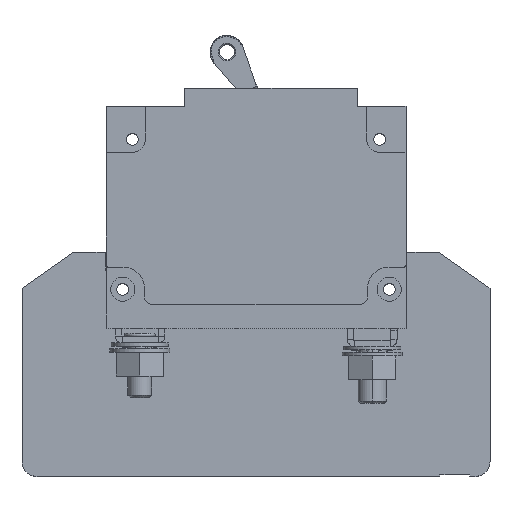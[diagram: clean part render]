
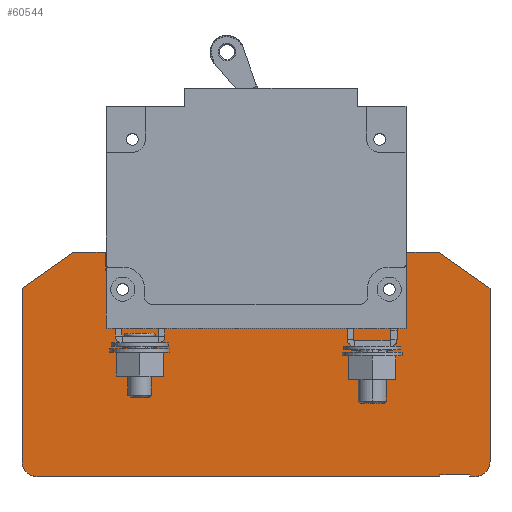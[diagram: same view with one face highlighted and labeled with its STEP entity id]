
A CAD part, top view. The second image highlights one B-rep face of the part: STEP entity #60544.
In plain terms, the highlighted planar face has unit normal (0, 0, 1).
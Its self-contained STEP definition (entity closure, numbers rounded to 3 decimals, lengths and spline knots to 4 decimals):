
#2205=DIRECTION('',(0.,1.,0.));
#2206=VECTOR('',#2205,0.15);
#2207=CARTESIAN_POINT('',(-1.3815,-1.18,-1.086));
#2208=LINE('',#2207,#2206);
#2242=DIRECTION('',(1.,0.,0.));
#2243=VECTOR('',#2242,0.043);
#2244=CARTESIAN_POINT('',(1.657,-2.9,-1.086));
#2245=LINE('',#2244,#2243);
#2246=DIRECTION('',(0.,1.,0.));
#2247=VECTOR('',#2246,0.015);
#2248=CARTESIAN_POINT('',(1.657,-2.9,-1.086));
#2249=LINE('',#2248,#2247);
#2250=DIRECTION('',(-1.,0.,0.));
#2251=VECTOR('',#2250,0.25);
#2252=CARTESIAN_POINT('',(1.657,-2.885,-1.086));
#2253=LINE('',#2252,#2251);
#2254=DIRECTION('',(0.,1.,0.));
#2255=VECTOR('',#2254,0.015);
#2256=CARTESIAN_POINT('',(1.407,-2.9,-1.086));
#2257=LINE('',#2256,#2255);
#2258=DIRECTION('',(1.,0.,0.));
#2259=VECTOR('',#2258,3.357);
#2260=CARTESIAN_POINT('',(-1.95,-2.9,-1.086));
#2261=LINE('',#2260,#2259);
#2262=DIRECTION('',(0.,-1.,0.));
#2263=VECTOR('',#2262,1.445);
#2264=CARTESIAN_POINT('',(-2.075,-1.33,-1.086));
#2265=LINE('',#2264,#2263);
#2266=DIRECTION('',(-0.819,-0.574,0.));
#2267=VECTOR('',#2266,0.523);
#2268=CARTESIAN_POINT('',(-1.6466,-1.03,-1.086));
#2269=LINE('',#2268,#2267);
#2270=DIRECTION('',(-1.,0.,0.));
#2271=VECTOR('',#2270,0.2651);
#2272=CARTESIAN_POINT('',(-1.3815,-1.03,-1.086));
#2273=LINE('',#2272,#2271);
#2274=DIRECTION('',(-1.,0.,0.));
#2275=VECTOR('',#2274,0.1565);
#2276=CARTESIAN_POINT('',(-1.225,-1.18,-1.086));
#2277=LINE('',#2276,#2275);
#2278=DIRECTION('',(0.,1.,0.));
#2279=VECTOR('',#2278,0.088);
#2280=CARTESIAN_POINT('',(-1.065,-1.428,-1.086));
#2281=LINE('',#2280,#2279);
#2282=DIRECTION('',(-1.,0.,0.));
#2283=VECTOR('',#2282,1.756);
#2284=CARTESIAN_POINT('',(0.753,-1.49,-1.086));
#2285=LINE('',#2284,#2283);
#2286=DIRECTION('',(0.,-1.,0.));
#2287=VECTOR('',#2286,0.088);
#2288=CARTESIAN_POINT('',(0.815,-1.34,-1.086));
#2289=LINE('',#2288,#2287);
#2290=DIRECTION('',(-1.,0.,0.));
#2291=VECTOR('',#2290,0.1565);
#2292=CARTESIAN_POINT('',(1.1315,-1.18,-1.086));
#2293=LINE('',#2292,#2291);
#2294=DIRECTION('',(-1.,0.,0.));
#2295=VECTOR('',#2294,0.2651);
#2296=CARTESIAN_POINT('',(1.3966,-1.03,-1.086));
#2297=LINE('',#2296,#2295);
#2298=DIRECTION('',(-0.819,0.574,0.));
#2299=VECTOR('',#2298,0.523);
#2300=CARTESIAN_POINT('',(1.825,-1.33,-1.086));
#2301=LINE('',#2300,#2299);
#2302=DIRECTION('',(0.,1.,0.));
#2303=VECTOR('',#2302,1.445);
#2304=CARTESIAN_POINT('',(1.825,-2.775,-1.086));
#2305=LINE('',#2304,#2303);
#2306=CARTESIAN_POINT('',(0.985,-1.34,-1.086));
#2307=DIRECTION('',(0.,0.,1.));
#2308=DIRECTION('',(1.,0.,0.));
#2309=AXIS2_PLACEMENT_3D('',#2306,#2307,#2308);
#2311=CARTESIAN_POINT('',(0.985,-1.34,-1.086));
#2312=DIRECTION('',(0.,0.,1.));
#2313=DIRECTION('',(-1.,0.,0.));
#2314=AXIS2_PLACEMENT_3D('',#2311,#2312,#2313);
#2316=CARTESIAN_POINT('',(-1.235,-1.34,-1.086));
#2317=DIRECTION('',(0.,0.,1.));
#2318=DIRECTION('',(1.,0.,0.));
#2319=AXIS2_PLACEMENT_3D('',#2316,#2317,#2318);
#2321=CARTESIAN_POINT('',(-1.235,-1.34,-1.086));
#2322=DIRECTION('',(0.,0.,1.));
#2323=DIRECTION('',(-1.,0.,0.));
#2324=AXIS2_PLACEMENT_3D('',#2321,#2322,#2323);
#2339=CARTESIAN_POINT('',(1.7,-2.775,-1.086));
#2340=DIRECTION('',(0.,0.,1.));
#2341=DIRECTION('',(0.,-1.,0.));
#2342=AXIS2_PLACEMENT_3D('',#2339,#2340,#2341);
#40325=DIRECTION('',(0.,-1.,0.));
#40326=VECTOR('',#40325,0.15);
#40327=CARTESIAN_POINT('',(1.1315,-1.03,-1.086));
#40328=LINE('',#40327,#40326);
#40348=CARTESIAN_POINT('',(0.975,-1.34,-1.086));
#40349=DIRECTION('',(0.,0.,1.));
#40350=DIRECTION('',(0.,1.,0.));
#40351=AXIS2_PLACEMENT_3D('',#40348,#40349,#40350);
#40361=CARTESIAN_POINT('',(0.753,-1.428,-1.086));
#40362=DIRECTION('',(0.,0.,-1.));
#40363=DIRECTION('',(1.,0.,0.));
#40364=AXIS2_PLACEMENT_3D('',#40361,#40362,#40363);
#40374=CARTESIAN_POINT('',(-1.003,-1.428,-1.086));
#40375=DIRECTION('',(0.,0.,-1.));
#40376=DIRECTION('',(0.,-1.,0.));
#40377=AXIS2_PLACEMENT_3D('',#40374,#40375,#40376);
#40387=CARTESIAN_POINT('',(-1.225,-1.34,-1.086));
#40388=DIRECTION('',(0.,0.,1.));
#40389=DIRECTION('',(1.,0.,0.));
#40390=AXIS2_PLACEMENT_3D('',#40387,#40388,#40389);
#40437=CARTESIAN_POINT('',(-1.95,-2.775,-1.086));
#40438=DIRECTION('',(0.,0.,1.));
#40439=DIRECTION('',(-1.,0.,0.));
#40440=AXIS2_PLACEMENT_3D('',#40437,#40438,#40439);
#48289=CARTESIAN_POINT('',(0.975,-1.18,-1.086));
#48290=CARTESIAN_POINT('',(0.815,-1.34,-1.086));
#48291=VERTEX_POINT('',#48289);
#48292=VERTEX_POINT('',#48290);
#48293=CARTESIAN_POINT('',(-1.065,-1.34,-1.086));
#48294=CARTESIAN_POINT('',(-1.225,-1.18,-1.086));
#48295=VERTEX_POINT('',#48293);
#48296=VERTEX_POINT('',#48294);
#48297=CARTESIAN_POINT('',(0.753,-1.49,-1.086));
#48298=CARTESIAN_POINT('',(-1.003,-1.49,-1.086));
#48299=VERTEX_POINT('',#48297);
#48300=VERTEX_POINT('',#48298);
#48301=CARTESIAN_POINT('',(0.815,-1.428,-1.086));
#48302=VERTEX_POINT('',#48301);
#48303=CARTESIAN_POINT('',(-1.065,-1.428,-1.086));
#48304=VERTEX_POINT('',#48303);
#48305=CARTESIAN_POINT('',(-1.3815,-1.18,-1.086));
#48306=CARTESIAN_POINT('',(-1.3815,-1.03,-1.086));
#48307=VERTEX_POINT('',#48305);
#48308=VERTEX_POINT('',#48306);
#48315=CARTESIAN_POINT('',(1.1315,-1.03,-1.086));
#48316=CARTESIAN_POINT('',(1.1315,-1.18,-1.086));
#48317=VERTEX_POINT('',#48315);
#48318=VERTEX_POINT('',#48316);
#48325=CARTESIAN_POINT('',(-1.6466,-1.03,-1.086));
#48326=VERTEX_POINT('',#48325);
#48329=CARTESIAN_POINT('',(1.3966,-1.03,-1.086));
#48330=VERTEX_POINT('',#48329);
#48341=CARTESIAN_POINT('',(1.407,-2.9,-1.086));
#48342=CARTESIAN_POINT('',(1.407,-2.885,-1.086));
#48343=VERTEX_POINT('',#48341);
#48344=VERTEX_POINT('',#48342);
#48345=CARTESIAN_POINT('',(1.657,-2.9,-1.086));
#48346=CARTESIAN_POINT('',(1.657,-2.885,-1.086));
#48347=VERTEX_POINT('',#48345);
#48348=VERTEX_POINT('',#48346);
#48349=CARTESIAN_POINT('',(1.825,-2.775,-1.086));
#48351=VERTEX_POINT('',#48349);
#48355=CARTESIAN_POINT('',(1.7,-2.9,-1.086));
#48356=VERTEX_POINT('',#48355);
#48369=CARTESIAN_POINT('',(-1.1375,-1.34,-1.086));
#48370=CARTESIAN_POINT('',(-1.3325,-1.34,-1.086));
#48371=VERTEX_POINT('',#48369);
#48372=VERTEX_POINT('',#48370);
#48401=CARTESIAN_POINT('',(1.0825,-1.34,-1.086));
#48402=CARTESIAN_POINT('',(0.8875,-1.34,-1.086));
#48403=VERTEX_POINT('',#48401);
#48404=VERTEX_POINT('',#48402);
#48421=CARTESIAN_POINT('',(-1.95,-2.9,-1.086));
#48423=VERTEX_POINT('',#48421);
#48427=CARTESIAN_POINT('',(-2.075,-2.775,-1.086));
#48428=VERTEX_POINT('',#48427);
#48433=CARTESIAN_POINT('',(-2.075,-1.33,-1.086));
#48434=VERTEX_POINT('',#48433);
#48435=CARTESIAN_POINT('',(1.825,-1.33,-1.086));
#48436=VERTEX_POINT('',#48435);
#60479=CARTESIAN_POINT('',(-2.075,-2.9,-1.086));
#60480=DIRECTION('',(0.,0.,1.));
#60481=DIRECTION('',(1.,0.,0.));
#60482=AXIS2_PLACEMENT_3D('',#60479,#60480,#60481);
#60483=PLANE('',#60482);
#60485=ORIENTED_EDGE('',*,*,#60484,.F.);
#60487=ORIENTED_EDGE('',*,*,#60486,.F.);
#60489=ORIENTED_EDGE('',*,*,#60488,.T.);
#60491=ORIENTED_EDGE('',*,*,#60490,.T.);
#60493=ORIENTED_EDGE('',*,*,#60492,.F.);
#60495=ORIENTED_EDGE('',*,*,#60494,.F.);
#60497=ORIENTED_EDGE('',*,*,#60496,.F.);
#60499=ORIENTED_EDGE('',*,*,#60498,.F.);
#60501=ORIENTED_EDGE('',*,*,#60500,.F.);
#60502=ORIENTED_EDGE('',*,*,#60469,.F.);
#60503=ORIENTED_EDGE('',*,*,#60424,.F.);
#60505=ORIENTED_EDGE('',*,*,#60504,.F.);
#60507=ORIENTED_EDGE('',*,*,#60506,.F.);
#60509=ORIENTED_EDGE('',*,*,#60508,.F.);
#60511=ORIENTED_EDGE('',*,*,#60510,.F.);
#60513=ORIENTED_EDGE('',*,*,#60512,.F.);
#60515=ORIENTED_EDGE('',*,*,#60514,.F.);
#60517=ORIENTED_EDGE('',*,*,#60516,.F.);
#60519=ORIENTED_EDGE('',*,*,#60518,.F.);
#60521=ORIENTED_EDGE('',*,*,#60520,.F.);
#60523=ORIENTED_EDGE('',*,*,#60522,.F.);
#60525=ORIENTED_EDGE('',*,*,#60524,.F.);
#60527=ORIENTED_EDGE('',*,*,#60526,.F.);
#60529=ORIENTED_EDGE('',*,*,#60528,.F.);
#60530=EDGE_LOOP('',(#60485,#60487,#60489,#60491,#60493,#60495,#60497,#60499,
#60501,#60502,#60503,#60505,#60507,#60509,#60511,#60513,#60515,#60517,#60519,
#60521,#60523,#60525,#60527,#60529));
#60531=FACE_OUTER_BOUND('',#60530,.F.);
#60533=ORIENTED_EDGE('',*,*,#60532,.T.);
#60535=ORIENTED_EDGE('',*,*,#60534,.T.);
#60536=EDGE_LOOP('',(#60533,#60535));
#60537=FACE_BOUND('',#60536,.F.);
#60539=ORIENTED_EDGE('',*,*,#60538,.T.);
#60541=ORIENTED_EDGE('',*,*,#60540,.T.);
#60542=EDGE_LOOP('',(#60539,#60541));
#60543=FACE_BOUND('',#60542,.F.);
#60544=ADVANCED_FACE('',(#60531,#60537,#60543),#60483,.T.);
#2310=CIRCLE('',#2309,0.0975);
#2315=CIRCLE('',#2314,0.0975);
#2320=CIRCLE('',#2319,0.0975);
#2325=CIRCLE('',#2324,0.0975);
#2343=CIRCLE('',#2342,0.125);
#40352=CIRCLE('',#40351,0.16);
#40365=CIRCLE('',#40364,0.062);
#40378=CIRCLE('',#40377,0.062);
#40391=CIRCLE('',#40390,0.16);
#40441=CIRCLE('',#40440,0.125);
#60424=EDGE_CURVE('',#48307,#48308,#2208,.T.);
#60469=EDGE_CURVE('',#48308,#48326,#2273,.T.);
#60484=EDGE_CURVE('',#48356,#48351,#2343,.T.);
#60486=EDGE_CURVE('',#48347,#48356,#2245,.T.);
#60488=EDGE_CURVE('',#48347,#48348,#2249,.T.);
#60490=EDGE_CURVE('',#48348,#48344,#2253,.T.);
#60492=EDGE_CURVE('',#48343,#48344,#2257,.T.);
#60494=EDGE_CURVE('',#48423,#48343,#2261,.T.);
#60496=EDGE_CURVE('',#48428,#48423,#40441,.T.);
#60498=EDGE_CURVE('',#48434,#48428,#2265,.T.);
#60500=EDGE_CURVE('',#48326,#48434,#2269,.T.);
#60504=EDGE_CURVE('',#48296,#48307,#2277,.T.);
#60506=EDGE_CURVE('',#48295,#48296,#40391,.T.);
#60508=EDGE_CURVE('',#48304,#48295,#2281,.T.);
#60510=EDGE_CURVE('',#48300,#48304,#40378,.T.);
#60512=EDGE_CURVE('',#48299,#48300,#2285,.T.);
#60514=EDGE_CURVE('',#48302,#48299,#40365,.T.);
#60516=EDGE_CURVE('',#48292,#48302,#2289,.T.);
#60518=EDGE_CURVE('',#48291,#48292,#40352,.T.);
#60520=EDGE_CURVE('',#48318,#48291,#2293,.T.);
#60522=EDGE_CURVE('',#48317,#48318,#40328,.T.);
#60524=EDGE_CURVE('',#48330,#48317,#2297,.T.);
#60526=EDGE_CURVE('',#48436,#48330,#2301,.T.);
#60528=EDGE_CURVE('',#48351,#48436,#2305,.T.);
#60532=EDGE_CURVE('',#48403,#48404,#2310,.T.);
#60534=EDGE_CURVE('',#48404,#48403,#2315,.T.);
#60538=EDGE_CURVE('',#48371,#48372,#2320,.T.);
#60540=EDGE_CURVE('',#48372,#48371,#2325,.T.);
